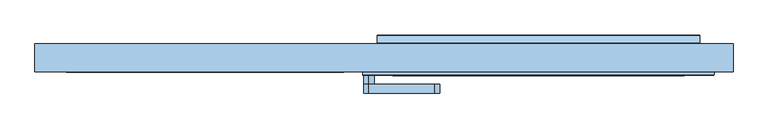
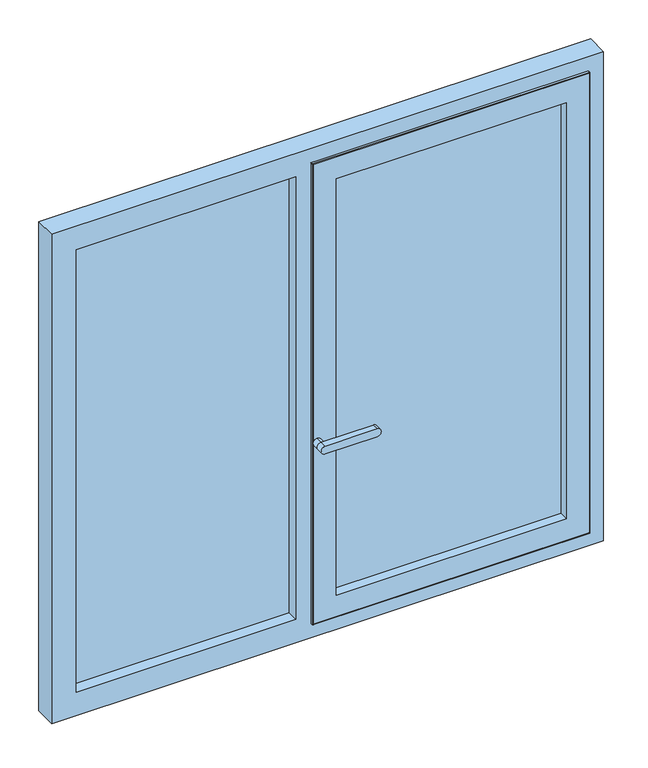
"""IFC4 building model written with IfcOpenShell, lengths in millimetres: window geometry, 900.04.006 : 900.04.006."""

from ifc_helpers import new_model, si_unit, point, frame, frame_2d, origin, place, context, project, spatial, polyline, circle_curve, ellipse_curve, trimmed, segment, composite_curve, outline, extrude, faceted_brep, source, transform, mapped, element, save
from ifc_brep_helpers import plane_surface, cylinder_surface, advanced_brep


def window_e15212f5(model_context):
    return source(origin(), model_context, "Body", "SolidModel", [
        advanced_brep(
        [(-34.5971205, -73.055947, 1422.0), (-34.5971205, -73.055947, 1398.0), (115.4028795, -73.055947, 1398.0), (115.4028795, -73.055947, 1422.0), (-34.5971205, -53.055947, 1398.0), (-34.5971205, -53.055947, 1422.0), (115.4028795, -53.055947, 1422.0), (115.4028795, -53.055947, 1398.0), (-34.5971205, -33.055947, 1422.0), (-34.5971205, -33.055947, 1398.0)],
        [
            (0, 1, circle_curve(frame((-34.5971205, -73.055947, 1410.0), z_axis=(0.0, -1.0, 0.0), x_axis=(0.0, 0.0, -1.0)), 12.0)),
            (1, 2),
            (2, 3, circle_curve(frame((115.4028795, -73.055947, 1410.0), z_axis=(0.0, -1.0, 0.0), x_axis=(0.0, 0.0, -1.0)), 12.0)),
            (3, 0),
            (4, 5, circle_curve(frame((-34.5971205, -53.055947, 1410.0), z_axis=(0.0, -1.0, 0.0), x_axis=(0.0, 0.0, -1.0)), 12.0)),
            (5, 6),
            (6, 7, circle_curve(frame((115.4028795, -53.055947, 1410.0), z_axis=(0.0, 1.0, 0.0), x_axis=(0.0, 0.0, -1.0)), 12.0)),
            (7, 4),
            (3, 6),
            (5, 0),
            (2, 7),
            (1, 4),
            (5, 4, circle_curve(frame((-34.5971205, -53.055947, 1410.0), z_axis=(0.0, -1.0, 0.0), x_axis=(0.0, 0.0, -1.0)), 12.0)),
            (8, 9, circle_curve(frame((-34.5971205, -33.055947, 1410.0), z_axis=(0.0, 1.0, 0.0), x_axis=(0.0, 0.0, -1.0)), 12.0)),
            (9, 8, circle_curve(frame((-34.5971205, -33.055947, 1410.0), z_axis=(0.0, 1.0, 0.0), x_axis=(0.0, 0.0, -1.0)), 12.0)),
            (8, 5),
            (4, 9),
        ],
        [
            plane_surface(frame((-34.5971205, -73.055947, 1422.0), z_axis=(0.0, -1.0, 0.0), x_axis=(1.0, 0.0, 0.0))),
            plane_surface(frame((-34.5971205, -53.055947, 1422.0), z_axis=(0.0, 1.0, 0.0), x_axis=(-1.0, 0.0, 0.0))),
            plane_surface(frame((-34.5971205, -73.055947, 1422.0), z_axis=(0.0, 0.0, 1.0), x_axis=(0.0, 1.0, 0.0))),
            cylinder_surface(frame((115.4028795, -53.055947, 1410.0), z_axis=(0.0, -1.0, 0.0), x_axis=(0.0, 0.0, -1.0)), 12.0),
            plane_surface(frame((115.4028795, -73.055947, 1398.0), z_axis=(0.0, 0.0, -1.0), x_axis=(0.0, 1.0, 0.0))),
            cylinder_surface(frame((-34.5971205, -53.055947, 1410.0), z_axis=(0.0, -1.0, 0.0), x_axis=(0.0, 0.0, -1.0)), 12.0),
            plane_surface(frame((-34.5971205, -33.055947, 1398.0), z_axis=(0.0, 1.0, 0.0), x_axis=(1.0, 0.0, 0.0))),
            cylinder_surface(frame((-34.5971205, -33.055947, 1410.0), z_axis=(0.0, -1.0, 0.0), x_axis=(0.0, 0.0, -1.0)), 12.0),
        ],
        [
            (0, [[1, 2, 3, 4]]),
            (1, [[5, 6, 7, 8]]),
            (2, [[9, -6, 10, -4]]),
            (3, [[11, -7, -9, -3]]),
            (4, [[12, -8, -11, -2]]),
            (5, [[-10, 13, -12, -1]]),
            (6, [[14, 15]]),
            (7, [[16, -5, 17, -14]]),
            (7, [[-17, -13, -16, -15]]),
        ],
    ),
        extrude(outline(polyline([(702.9945196, -5.0543072), (5.0027365, -5.0543072), (5.0027365, 32.9456105), (702.9945196, 32.9456105), (702.9945196, -5.0543072)])), frame((0.0, 0.0, 907.0054804), z_axis=(0.0, 0.0, 1.0), x_axis=(1.0, 0.0, 0.0)), (0.0, 0.0, 1.0), 1305.9890391),
        advanced_brep(
        [(-15.5194227, 34.439423, 2233.5166787), (-15.5194227, 39.1430318, 2233.5166787), (-15.5194227, 39.1430318, 886.4833213), (-15.5194227, 34.439423, 886.4833213), (-14.7194227, 39.9430318, 2232.7166787), (-14.7194227, 39.9430318, 887.2833213), (723.5166787, 39.1430318, 886.4833213), (723.5166787, 34.439423, 886.4833213), (-30.997011, 34.439423, 2248.9942671), (738.9942671, 34.439423, 2248.9942671), (738.9942671, 34.439423, 871.0057329), (-30.997011, 34.439423, 871.0057329), (723.5166787, 34.439423, 2233.5166787), (-30.997011, -25.0601119, 2248.9942671), (-30.997011, -25.0601119, 871.0057329), (738.9942671, -25.0601119, 871.0057329), (-48.4971205, -25.0601119, 2266.4943766), (756.4943766, -25.0601119, 2266.4943766), (756.4943766, -25.0601119, 853.5056234), (-48.4971205, -25.0601119, 853.5056234), (738.9942671, -25.0601119, 2248.9942671), (-48.4971205, -31.055947, 2266.4943766), (-48.4971205, -31.055947, 853.5056234), (756.4943766, -31.055947, 853.5056234), (-46.4971205, -33.055947, 2264.4943766), (-46.4971205, -33.055947, 855.5056234), (754.4943766, -33.055947, 855.5056234), (754.4943766, -33.055947, 2264.4943766), (20.002995, -33.055947, 2197.9942611), (687.9942611, -33.055947, 2197.9942611), (687.9942611, -33.055947, 922.0057389), (20.002995, -33.055947, 922.0057389), (20.002995, -5.0543072, 2197.9942611), (20.002995, -5.0543072, 922.0057389), (687.9942611, -5.0543072, 922.0057389), (5.0027365, -5.0543072, 2212.9945196), (702.9945196, -5.0543072, 2212.9945196), (702.9945196, -5.0543072, 907.0054804), (5.0027365, -5.0543072, 907.0054804), (687.9942611, -5.0543072, 2197.9942611), (5.0027365, 32.9456105, 2212.9945196), (5.0027365, 32.9456105, 907.0054804), (702.9945196, 32.9456105, 907.0054804), (702.9945196, 32.9456105, 2212.9945196), (20.002995, 32.9456105, 2197.9942611), (687.9942611, 32.9456105, 2197.9942611), (687.9942611, 32.9456105, 922.0057389), (20.002995, 32.9456105, 922.0057389), (20.002995, 39.9430318, 2197.9942611), (20.002995, 39.9430318, 922.0057389), (687.9942611, 39.9430318, 922.0057389), (722.7166787, 39.9430318, 2232.7166787), (722.7166787, 39.9430318, 887.2833213), (687.9942611, 39.9430318, 2197.9942611), (723.5166787, 39.1430318, 2233.5166787), (756.4943766, -31.055947, 2266.4943766)],
        [
            (0, 1),
            (1, 2),
            (2, 3),
            (3, 0),
            (1, 4, ellipse_curve(frame((-14.7194227, 39.1430318, 2232.7166787), z_axis=(-0.7071067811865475, 0.0, -0.7071067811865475), x_axis=(-0.7071067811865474, 0.0, 0.7071067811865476)), 1.1313708, 0.8)),
            (4, 5),
            (5, 2, ellipse_curve(frame((-14.7194227, 39.1430318, 887.2833213), z_axis=(-0.7071067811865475, 0.0, 0.7071067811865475), x_axis=(0.7071067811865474, 0.0, 0.7071067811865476)), 1.1313708, 0.8)),
            (2, 6),
            (6, 7),
            (7, 3),
            (8, 9),
            (9, 10),
            (10, 11),
            (11, 8),
            (7, 12),
            (12, 0),
            (13, 8),
            (11, 14),
            (14, 13),
            (10, 15),
            (15, 14),
            (16, 17),
            (17, 18),
            (18, 19),
            (19, 16),
            (15, 20),
            (20, 13),
            (21, 16),
            (19, 22),
            (22, 21),
            (18, 23),
            (23, 22),
            (24, 21, ellipse_curve(frame((-46.4971205, -31.055947, 2264.4943766), z_axis=(-0.7071067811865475, 0.0, -0.7071067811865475), x_axis=(-0.7071067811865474, 0.0, 0.7071067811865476)), 2.8284271, 2.0)),
            (22, 25, ellipse_curve(frame((-46.4971205, -31.055947, 855.5056234), z_axis=(-0.7071067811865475, 0.0, 0.7071067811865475), x_axis=(0.7071067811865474, 0.0, 0.7071067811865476)), 2.8284271, 2.0)),
            (25, 24),
            (23, 26, ellipse_curve(frame((754.4943766, -31.055947, 855.5056234), z_axis=(-0.7071067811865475, 0.0, -0.7071067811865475), x_axis=(-0.7071067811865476, 0.0, 0.7071067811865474)), 2.8284271, 2.0)),
            (26, 25),
            (26, 27),
            (27, 24),
            (28, 29),
            (29, 30),
            (30, 31),
            (31, 28),
            (32, 28),
            (31, 33),
            (33, 32),
            (30, 34),
            (34, 33),
            (35, 36),
            (36, 37),
            (37, 38),
            (38, 35),
            (34, 39),
            (39, 32),
            (40, 35),
            (38, 41),
            (41, 40),
            (37, 42),
            (42, 41),
            (42, 43),
            (43, 40),
            (44, 45),
            (45, 46),
            (46, 47),
            (47, 44),
            (48, 44),
            (47, 49),
            (49, 48),
            (46, 50),
            (50, 49),
            (4, 51),
            (51, 52),
            (52, 5),
            (50, 53),
            (53, 48),
            (52, 6, ellipse_curve(frame((722.7166787, 39.1430318, 887.2833213), z_axis=(-0.7071067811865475, 0.0, -0.7071067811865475), x_axis=(-0.7071067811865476, 0.0, 0.7071067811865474)), 1.1313708, 0.8)),
            (6, 54),
            (54, 12),
            (9, 20),
            (17, 55),
            (55, 23),
            (55, 27, ellipse_curve(frame((754.4943766, -31.055947, 2264.4943766), z_axis=(0.7071067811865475, 0.0, -0.7071067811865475), x_axis=(-0.7071067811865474, 0.0, -0.7071067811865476)), 2.8284271, 2.0)),
            (29, 39),
            (36, 43),
            (45, 53),
            (51, 54, ellipse_curve(frame((722.7166787, 39.1430318, 2232.7166787), z_axis=(0.7071067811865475, 0.0, -0.7071067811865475), x_axis=(-0.7071067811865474, 0.0, -0.7071067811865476)), 1.1313708, 0.8)),
            (54, 1),
            (21, 55),
        ],
        [
            plane_surface(frame((-15.5194227, 39.1430318, 2233.5166787), z_axis=(-1.0, 0.0, 0.0), x_axis=(0.0, 0.0, -1.0))),
            cylinder_surface(frame((-14.7194227, 39.1430318, 2310.0), z_axis=(0.0, 0.0, 1.0), x_axis=(0.0, 1.0, 0.0)), 0.8),
            plane_surface(frame((-15.5194227, 39.1430318, 886.4833213), z_axis=(0.0, 0.0, -1.0), x_axis=(1.0, 0.0, 0.0))),
            plane_surface(frame((723.5166787, 34.439423, 2233.5166787), z_axis=(0.0, 1.0, 0.0), x_axis=(-1.0, 0.0, 0.0))),
            plane_surface(frame((-30.997011, 34.439423, 2248.9942671), z_axis=(-1.0, 0.0, 0.0), x_axis=(0.0, 0.0, -1.0))),
            plane_surface(frame((-30.997011, 34.439423, 871.0057329), z_axis=(0.0, 0.0, -1.0), x_axis=(1.0, 0.0, 0.0))),
            plane_surface(frame((738.9942671, -25.0601119, 2248.9942671), z_axis=(0.0, 1.0, 0.0), x_axis=(-1.0, 0.0, 0.0))),
            plane_surface(frame((-48.4971205, -25.0601119, 2266.4943766), z_axis=(-1.0, 0.0, 0.0), x_axis=(0.0, 0.0, -1.0))),
            plane_surface(frame((-48.4971205, -25.0601119, 853.5056234), z_axis=(0.0, 0.0, -1.0), x_axis=(1.0, 0.0, 0.0))),
            cylinder_surface(frame((-46.4971205, -31.055947, 2310.0), z_axis=(0.0, 0.0, 1.0), x_axis=(-1.0, 0.0, 0.0)), 2.0),
            cylinder_surface(frame((-92.0027439, -31.055947, 855.5056234), z_axis=(-1.0, 0.0, 0.0), x_axis=(0.0, 0.0, -1.0)), 2.0),
            plane_surface(frame((754.4943766, -33.055947, 2264.4943766), z_axis=(0.0, -1.0, 0.0), x_axis=(-1.0, 0.0, 0.0))),
            plane_surface(frame((20.002995, -33.055947, 2197.9942611), z_axis=(1.0, 0.0, 0.0), x_axis=(0.0, 0.0, -1.0))),
            plane_surface(frame((20.002995, -33.055947, 922.0057389), z_axis=(0.0, 0.0, 1.0), x_axis=(1.0, 0.0, 0.0))),
            plane_surface(frame((687.9942611, -5.0543072, 2197.9942611), z_axis=(0.0, 1.0, 0.0), x_axis=(-1.0, 0.0, 0.0))),
            plane_surface(frame((5.0027365, -5.0543072, 2212.9945196), z_axis=(1.0, 0.0, 0.0), x_axis=(0.0, 0.0, -1.0))),
            plane_surface(frame((5.0027365, -5.0543072, 907.0054804), z_axis=(0.0, 0.0, 1.0), x_axis=(1.0, 0.0, 0.0))),
            plane_surface(frame((702.9945196, 32.9456105, 2212.9945196), z_axis=(0.0, -1.0, 0.0), x_axis=(-1.0, 0.0, 0.0))),
            plane_surface(frame((20.002995, 32.9456105, 2197.9942611), z_axis=(1.0, 0.0, 0.0), x_axis=(0.0, 0.0, -1.0))),
            plane_surface(frame((20.002995, 32.9456105, 922.0057389), z_axis=(0.0, 0.0, 1.0), x_axis=(1.0, 0.0, 0.0))),
            plane_surface(frame((687.9942611, 39.9430318, 2197.9942611), z_axis=(0.0, 1.0, 0.0), x_axis=(-1.0, 0.0, 0.0))),
            cylinder_surface(frame((-92.0027439, 39.1430318, 887.2833213), z_axis=(-1.0, 0.0, 0.0), x_axis=(0.0, 1.0, 0.0)), 0.8),
            plane_surface(frame((723.5166787, 39.1430318, 886.4833213), z_axis=(1.0, 0.0, 0.0), x_axis=(0.0, 0.0, 1.0))),
            plane_surface(frame((738.9942671, 34.439423, 871.0057329), z_axis=(1.0, 0.0, 0.0), x_axis=(0.0, 0.0, 1.0))),
            plane_surface(frame((756.4943766, -25.0601119, 853.5056234), z_axis=(1.0, 0.0, 0.0), x_axis=(0.0, 0.0, 1.0))),
            cylinder_surface(frame((754.4943766, -31.055947, 810.0), z_axis=(0.0, 0.0, -1.0), x_axis=(1.0, 0.0, 0.0)), 2.0),
            plane_surface(frame((687.9942611, -33.055947, 922.0057389), z_axis=(-1.0, 0.0, 0.0), x_axis=(0.0, 0.0, 1.0))),
            plane_surface(frame((702.9945196, -5.0543072, 907.0054804), z_axis=(-1.0, 0.0, 0.0), x_axis=(0.0, 0.0, 1.0))),
            plane_surface(frame((687.9942611, 32.9456105, 922.0057389), z_axis=(-1.0, 0.0, 0.0), x_axis=(0.0, 0.0, 1.0))),
            cylinder_surface(frame((722.7166787, 39.1430318, 810.0), z_axis=(0.0, 0.0, -1.0), x_axis=(0.0, 1.0, 0.0)), 0.8),
            plane_surface(frame((723.5166787, 39.1430318, 2233.5166787), z_axis=(0.0, 0.0, 1.0), x_axis=(-1.0, 0.0, 0.0))),
            plane_surface(frame((738.9942671, 34.439423, 2248.9942671), z_axis=(0.0, 0.0, 1.0), x_axis=(-1.0, 0.0, 0.0))),
            plane_surface(frame((756.4943766, -25.0601119, 2266.4943766), z_axis=(0.0, 0.0, 1.0), x_axis=(-1.0, 0.0, 0.0))),
            cylinder_surface(frame((800.0, -31.055947, 2264.4943766), z_axis=(1.0, 0.0, 0.0), x_axis=(0.0, 0.0, 1.0)), 2.0),
            plane_surface(frame((687.9942611, -33.055947, 2197.9942611), z_axis=(0.0, 0.0, -1.0), x_axis=(-1.0, 0.0, 0.0))),
            plane_surface(frame((702.9945196, -5.0543072, 2212.9945196), z_axis=(0.0, 0.0, -1.0), x_axis=(-1.0, 0.0, 0.0))),
            plane_surface(frame((687.9942611, 32.9456105, 2197.9942611), z_axis=(0.0, 0.0, -1.0), x_axis=(-1.0, 0.0, 0.0))),
            cylinder_surface(frame((800.0, 39.1430318, 2232.7166787), z_axis=(1.0, 0.0, 0.0), x_axis=(0.0, 1.0, 0.0)), 0.8),
        ],
        [
            (0, [[1, 2, 3, 4]]),
            (1, [[5, 6, 7, -2]]),
            (2, [[-3, 8, 9, 10]]),
            (3, [[11, 12, 13, 14], [-10, 15, 16, -4]]),
            (4, [[17, -14, 18, 19]]),
            (5, [[-18, -13, 20, 21]]),
            (6, [[22, 23, 24, 25], [-21, 26, 27, -19]]),
            (7, [[28, -25, 29, 30]]),
            (8, [[-29, -24, 31, 32]]),
            (9, [[33, -30, 34, 35]]),
            (10, [[-34, -32, 36, 37]]),
            (11, [[-37, 38, 39, -35], [40, 41, 42, 43]]),
            (12, [[44, -43, 45, 46]]),
            (13, [[-45, -42, 47, 48]]),
            (14, [[49, 50, 51, 52], [-48, 53, 54, -46]]),
            (15, [[55, -52, 56, 57]]),
            (16, [[-56, -51, 58, 59]]),
            (17, [[-59, 60, 61, -57], [62, 63, 64, 65]]),
            (18, [[66, -65, 67, 68]]),
            (19, [[-67, -64, 69, 70]]),
            (20, [[71, 72, 73, -6], [-70, 74, 75, -68]]),
            (21, [[-7, -73, 76, -8]]),
            (22, [[-9, 77, 78, -15]]),
            (23, [[-20, -12, 79, -26]]),
            (24, [[-31, -23, 80, 81]]),
            (25, [[-36, -81, 82, -38]]),
            (26, [[-47, -41, 83, -53]]),
            (27, [[-58, -50, 84, -60]]),
            (28, [[-69, -63, 85, -74]]),
            (29, [[-76, -72, 86, -77]]),
            (30, [[-78, 87, -1, -16]]),
            (31, [[-79, -11, -17, -27]]),
            (32, [[-80, -22, -28, 88]]),
            (33, [[-82, -88, -33, -39]]),
            (34, [[-83, -40, -44, -54]]),
            (35, [[-84, -49, -55, -61]]),
            (36, [[-85, -62, -66, -75]]),
            (37, [[-86, -71, -5, -87]]),
        ],
    ),
        extrude(outline(composite_curve([segment(trimmed(circle_curve(frame_2d((55.3559964, 886.9332661)), 3.1661269), [point((58.489989, 886.4833213))], [point((57.3430321, 889.3982304))], True, "CARTESIAN"), True, "CONTINUOUS"), segment(polyline([(57.3430321, 889.3982304), (45.3430382, 896.3264841), (41.3430258, 889.3981323), (41.3534444, 886.4833213), (39.9430318, 886.4833213), (39.9430318, 900.4833373), (40.9430628, 900.4833373), (57.9430018, 890.6683953)]), True, "CONTINUOUS"), segment(trimmed(circle_curve(frame_2d((55.6509506, 887.0254426)), 4.3040217), [point((57.9430018, 890.6683953))], [point((59.9206937, 886.4833213))], False, "CARTESIAN"), True, "CONTINUOUS"), segment(polyline([(59.9206937, 886.4833213), (58.489989, 886.4833213)]), True, "CONTINUOUS")], self_intersect=False)), frame((-15.5300774, 0.0, 0.0), z_axis=(1.0, 0.0, 0.0), x_axis=(0.0, 1.0, 0.0)), (0.0, 0.0, 1.0), 739.0574108),
        faceted_brep([(-800.0, 40.0, 2310.0), (-800.0, 40.0, 810.0), (-800.0, -25.0009026, 810.0), (-800.0, -25.0009026, 2310.0), (800.0, 40.0, 810.0), (800.0, -25.0009026, 810.0), (800.0, 40.0, 2310.0), (-728.499927, 40.0, 2238.499927), (-728.499927, 40.0, 881.500073), (-92.5000614, 40.0, 881.500073), (-92.5000614, 40.0, 2238.499927), (-20.5001267, 40.0, 2238.5000871), (-20.5001267, 40.0, 881.4999129), (728.5000871, 40.0, 881.4999129), (728.5000871, 40.0, 2238.5000871), (800.0, -25.0009026, 2310.0), (-42.5, -25.0003245, 859.5000109), (-42.5, -25.0003245, 2260.4999891), (750.4999891, -25.0003245, 2260.4999891), (750.4999891, -25.0003245, 859.5000109), (-728.499927, -25.0003245, 881.500073), (-728.499927, -25.0003245, 2238.499927), (-92.5000614, -25.0003245, 2238.499927), (-92.5000614, -25.0003245, 881.500073), (750.4999891, 34.4965674, 2260.4999891), (750.4999891, 34.4965674, 859.5000109), (-42.5, 34.4958833, 2260.4999891), (-42.5, 34.4958833, 859.5000109), (-20.5001267, 34.4958833, 881.4999129), (-20.5001267, 34.4958833, 2238.5000871), (728.5000871, 34.4958833, 2238.5000871), (728.5000871, 34.4958833, 881.4999129), (-728.499927, 8.4954734, 881.500073), (-728.499927, 8.4954734, 2238.499927), (-92.5000614, 8.4960515, 2238.499927), (-92.5000614, 8.4960515, 881.500073), (-743.5001854, 8.4960515, 866.4998146), (-743.5001854, 8.4960515, 2253.5001854), (-77.4998095, 8.4960515, 2253.5001854), (-77.4998095, 8.4960515, 866.4998146), (-743.5001854, 32.4475853, 866.4998146), (-743.5001854, 32.4475853, 2253.5001854), (-77.4998095, 32.4960515, 2253.5001854), (-77.4998095, 32.4960515, 866.4998146), (-728.5249122, 32.4960515, 881.4750878), (-728.5249122, 32.4960515, 2238.5249122), (-92.5000614, 32.4960515, 2238.5247519), (-92.5000614, 32.4960515, 881.4752481)], [[[0, 1, 2, 3]], [[2, 1, 4, 5]], [[4, 1, 0, 6], [7, 8, 9, 10], [11, 12, 13, 14]], [[4, 6, 15, 5]], [[15, 3, 2, 5], [16, 17, 18, 19], [20, 21, 22, 23]], [[24, 25, 19, 18]], [[25, 24, 26, 27], [28, 29, 30, 31]], [[27, 26, 17, 16]], [[16, 19, 25, 27]], [[29, 28, 12, 11]], [[14, 13, 31, 30]], [[31, 13, 12, 28]], [[21, 20, 32, 33]], [[23, 22, 34, 35]], [[32, 20, 23, 35]], [[36, 37, 38, 39], [33, 32, 35, 34]], [[37, 36, 40, 41]], [[38, 42, 43, 39]], [[40, 36, 39, 43]], [[41, 40, 43, 42], [44, 45, 46, 47]], [[8, 7, 45, 44]], [[47, 46, 10, 9]], [[8, 44, 47, 9]], [[0, 3, 15, 6]], [[21, 33, 34, 22]], [[37, 41, 42, 38]], [[45, 7, 10, 46]], [[14, 30, 29, 11]], [[26, 24, 18, 17]]]),
        extrude(outline(polyline([(-77.4998095, 8.4954734), (-743.5001854, 8.4954734), (-743.5001854, 32.4475853), (-77.4998095, 32.4475853), (-77.4998095, 8.4954734)])), frame((0.0, 0.0, 866.4998146), z_axis=(0.0, 0.0, 1.0), x_axis=(1.0, 0.0, 0.0)), (0.0, 0.0, 1.0), 1387.0003709),
    ])


if __name__ == "__main__":
    model = new_model("IFC4")
    model_context = context("Model", 3, world=origin())
    ifc_project = project(units=[si_unit("LENGTHUNIT", "METRE", prefix="MILLI")], contexts=[model_context])
    site = spatial("IfcSite", under=ifc_project)
    building = spatial("IfcBuilding", under=site)
    placement = place(None, origin())
    window_shape = window_e15212f5(model_context)
    element("IfcWindow", 1, ObjectType="900.04.006 : 900.04.006", at=placement, inside=building, context=model_context, shape_type="MappedRepresentation", body=[
        mapped(window_shape, transform((0.0, 0.0, 0.0), x_axis=(1.0, 0.0, 0.0), y_axis=(0.0, 1.0, 0.0), z_axis=(0.0, 0.0, 1.0))),
    ])
    save(model, "model.ifc")
